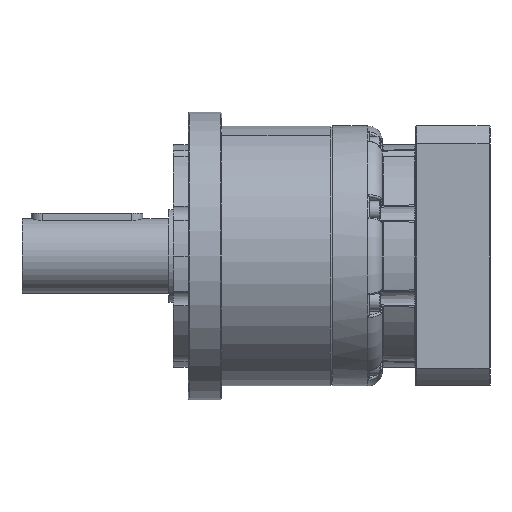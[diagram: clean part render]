
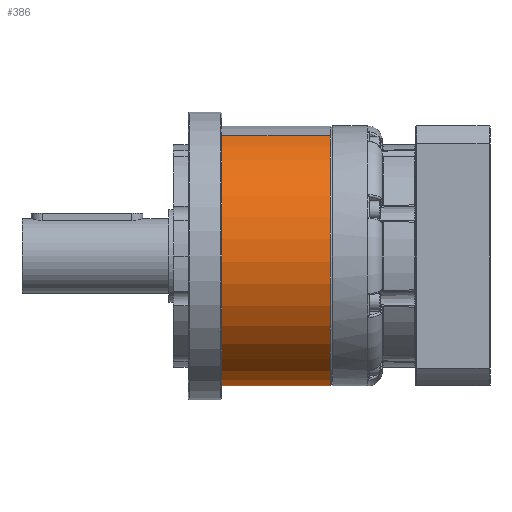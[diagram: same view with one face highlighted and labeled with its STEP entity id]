
A CAD part, front view. The second image highlights one B-rep face of the part: STEP entity #386.
In plain terms, the highlighted cylindrical face has radius 70 mm (diameter 140 mm), a partial arc.
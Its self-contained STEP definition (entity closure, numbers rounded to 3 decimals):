
#48 = VERTEX_POINT ( 'NONE', #13818 ) ;
#138 = EDGE_CURVE ( 'NONE', #147, #48, #13988, .T. ) ;
#147 = VERTEX_POINT ( 'NONE', #13983 ) ;
#148 = VERTEX_POINT ( 'NONE', #14043 ) ;
#172 = EDGE_CURVE ( 'NONE', #148, #173, #14053, .T. ) ;
#173 = VERTEX_POINT ( 'NONE', #14106 ) ;
#386 = ADVANCED_FACE ( 'NONE', ( #13940 ), #23660, .T. ) ;
#396 = ORIENTED_EDGE ( 'NONE', *, *, #823, .F. ) ;
#710 = ORIENTED_EDGE ( 'NONE', *, *, #1292, .T. ) ;
#820 = ORIENTED_EDGE ( 'NONE', *, *, #138, .T. ) ;
#823 = EDGE_CURVE ( 'NONE', #173, #48, #24476, .T. ) ;
#1282 = ORIENTED_EDGE ( 'NONE', *, *, #172, .F. ) ;
#1292 = EDGE_CURVE ( 'NONE', #148, #147, #28384, .T. ) ;
#1316 = EDGE_LOOP ( 'NONE', ( #1282, #710, #820, #396 ) ) ;
#13818 = CARTESIAN_POINT ( 'NONE',  ( 0., 1., -70. ) ) ;
#13940 = FACE_OUTER_BOUND ( 'NONE', #1316, .T. ) ;
#13983 = CARTESIAN_POINT ( 'NONE',  ( 0., 60.5, -70. ) ) ;
#13985 = DIRECTION ( 'NONE',  ( 0., -1., 0. ) ) ;
#13986 = VECTOR ( 'NONE', #13985, 1000. ) ;
#13987 = CARTESIAN_POINT ( 'NONE',  ( 0., -8.026, -70. ) ) ;
#13988 = LINE ( 'NONE', #13987, #13986 ) ;
#14043 = CARTESIAN_POINT ( 'NONE',  ( 0., 60.5, 70. ) ) ;
#14053 = LINE ( 'NONE', #14105, #14104 ) ;
#14103 = DIRECTION ( 'NONE',  ( 0., -1., 0. ) ) ;
#14104 = VECTOR ( 'NONE', #14103, 1000. ) ;
#14105 = CARTESIAN_POINT ( 'NONE',  ( 0., -8.026, 70. ) ) ;
#14106 = CARTESIAN_POINT ( 'NONE',  ( 0., 1., 70. ) ) ;
#23656 = DIRECTION ( 'NONE',  ( 0., 0., -1. ) ) ;
#23657 = DIRECTION ( 'NONE',  ( 0., -1., 0. ) ) ;
#23658 = CARTESIAN_POINT ( 'NONE',  ( 0., -8.026, 0. ) ) ;
#23659 = AXIS2_PLACEMENT_3D ( 'NONE', #23658, #23657, #23656 ) ;
#23660 = CYLINDRICAL_SURFACE ( 'NONE', #23659, 70. ) ;
#24471 = DIRECTION ( 'NONE',  ( 0., 0., -1. ) ) ;
#24472 = DIRECTION ( 'NONE',  ( 0., -1., 0. ) ) ;
#24473 = CARTESIAN_POINT ( 'NONE',  ( 0., 1., 0. ) ) ;
#24474 = AXIS2_PLACEMENT_3D ( 'NONE', #24473, #24472, #24471 ) ;
#24476 = CIRCLE ( 'NONE', #24474, 70. ) ;
#28381 = CARTESIAN_POINT ( 'NONE',  ( 0., 60.5, 0. ) ) ;
#28384 = CIRCLE ( 'NONE', #28449, 70. ) ;
#28447 = DIRECTION ( 'NONE',  ( 0., 0., -1. ) ) ;
#28448 = DIRECTION ( 'NONE',  ( 0., -1., 0. ) ) ;
#28449 = AXIS2_PLACEMENT_3D ( 'NONE', #28381, #28448, #28447 ) ;
